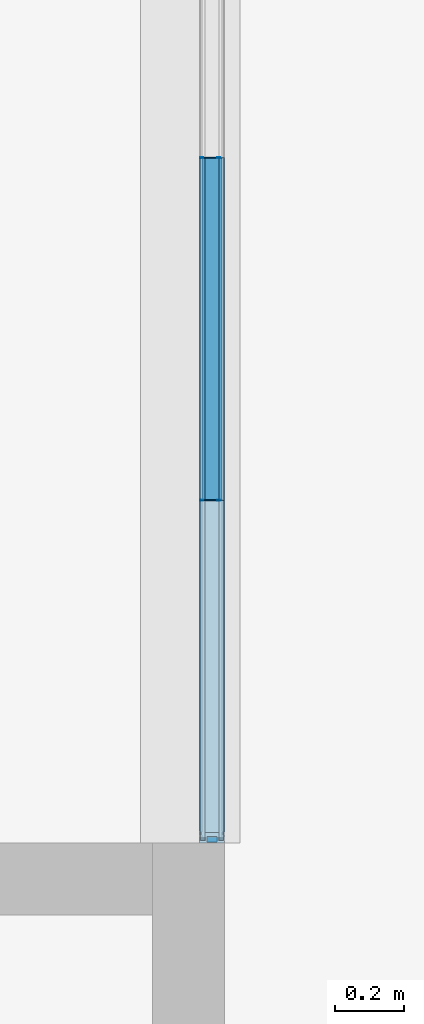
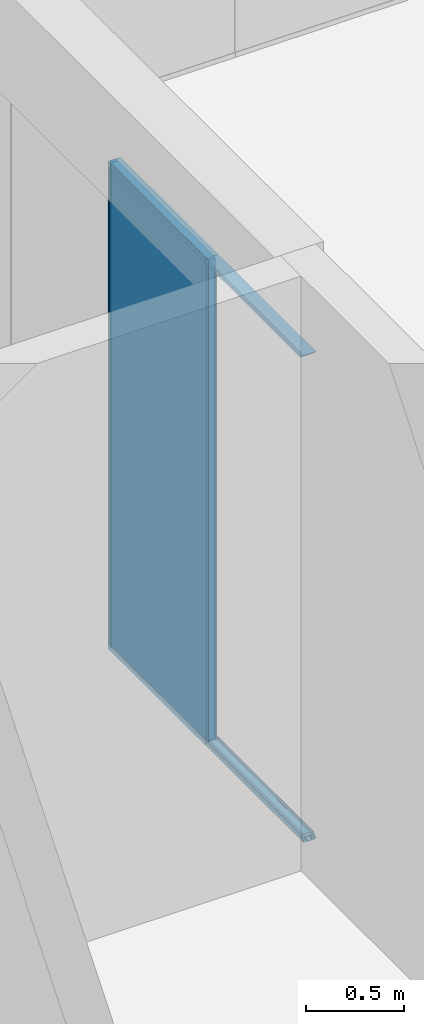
# One storey, part 69 of 387: 10 building element parts, 8 elements without a shape of their own.
"""IFC2X3 building model written with IfcOpenShell, lengths in millimetres."""

from ifc_helpers import new_model, entity, si_unit, converted_unit, derived_unit, money_unit, direction, frame, origin_with_axes, place, context, subcontext, project, spatial, faceted_brep, source, transform, mapped, material, type_object, element, aggregate, save


model = new_model("IFC2X3")

# Units and contexts
model_context = context("Model", 3, precision=0.01, world=origin_with_axes(), true_north=direction((0.0, 1.0)))
body_context = subcontext(model_context, "Body", "Model", "MODEL_VIEW")
ifc_project = project(units=[si_unit("LENGTHUNIT", "METRE", prefix="MILLI"), si_unit("AREAUNIT", "SQUARE_METRE"), si_unit("VOLUMEUNIT", "CUBIC_METRE"), converted_unit("PLANEANGLEUNIT", "DEGREE", entity("IfcPlaneAngleMeasure", 0.0174532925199), si_unit("PLANEANGLEUNIT", "RADIAN"), dimensions=[0, 0, 0, 0, 0, 0, 0]), si_unit("SOLIDANGLEUNIT", "STERADIAN"), money_unit("EUR"), converted_unit("TIMEUNIT", "Year", entity("IfcTimeMeasure", 31556926.0), si_unit("TIMEUNIT", "SECOND"), dimensions=[0, 0, 1, 0, 0, 0, 0]), si_unit("MASSUNIT", "GRAM", prefix="KILO"), si_unit("THERMODYNAMICTEMPERATUREUNIT", "DEGREE_CELSIUS"), si_unit("LUMINOUSINTENSITYUNIT", "LUMEN"), si_unit("ENERGYUNIT", "JOULE", prefix="MEGA"), derived_unit("THERMALCONDUCTANCEUNIT", [(si_unit("POWERUNIT", "WATT"), 1), (si_unit("LENGTHUNIT", "METRE"), -1), (si_unit("THERMODYNAMICTEMPERATUREUNIT", "KELVIN"), -1)]), derived_unit("SPECIFICHEATCAPACITYUNIT", [(si_unit("ENERGYUNIT", "JOULE"), 1), (si_unit("MASSUNIT", "GRAM", prefix="KILO"), -1), (si_unit("THERMODYNAMICTEMPERATUREUNIT", "KELVIN"), -1)]), derived_unit("MASSDENSITYUNIT", [(si_unit("MASSUNIT", "GRAM", prefix="KILO"), 1), (si_unit("VOLUMEUNIT", "CUBIC_METRE"), -1)])], contexts=[model_context])

# Site, building, storey
site_placement = place(None, origin_with_axes())
site = spatial("IfcSite", under=ifc_project, at=site_placement, Name="Puškini 31, Narva", CompositionType="ELEMENT")
building_placement = place(site_placement, origin_with_axes())
building = spatial("IfcBuilding", under=site, at=building_placement, Name="Narva Riigigümnaasium", CompositionType="ELEMENT")
storey_placement = place(building_placement, frame((0.0, 0.0, 2640.0), z_axis=(0.0, 0.0, 1.0), x_axis=(1.0, 0.0, 0.0)))
storey = spatial("IfcBuildingStorey", under=building, at=storey_placement, Name="2.korrus +2.64", CompositionType="ELEMENT", Elevation=2640.0)

# Curtain wall, members, building element parts, plate
curtain_wall_type = type_object("IfcCurtainWallType", Name="Curtain Wall Type", PredefinedType="NOTDEFINED")
curtain_wall_placement = place(storey_placement, frame((32758.0000014, 170699.499919, -1.72487286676e-05), z_axis=(0.0, 0.0, 1.0), x_axis=(1.0, 0.0, 0.0)))
curtain_wall = element("IfcCurtainWall", 1, at=curtain_wall_placement, inside=storey, type_object=curtain_wall_type, Name="G-SKLF-29")
member_type_1 = type_object("IfcMemberType", Name="Boundary Frame 30 x 42", PredefinedType="MULLION")
member_1_placement = place(curtain_wall_placement, frame((-3.12709858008e-08, -2492.5, 0.0), z_axis=(0.0, 1.0, 0.0), x_axis=(0.0, 0.0, 1.0)))
member_1 = element("IfcMember", 2, at=member_1_placement, type_object=member_type_1, Name="G-SKLF-20-raam", ObjectType="MULLION")
ifc_material_1 = material(Name="Teras RAL7012")
shared_shape_1 = source(origin_with_axes(), body_context, "Body", "Brep", [
    faceted_brep([(-29.5999996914, -22.0000000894, 1.47998535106), (0.0, -22.0000000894, 0.0), (0.0, -22.0000000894, 997.0), (-29.5999996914, -22.0000000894, 995.519987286), (-29.5999996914, 12.0000000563, 1.47998535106), (0.0, 12.0000000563, 0.0), (-1.9999999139, 10.0000001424, 0.0999990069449), (-18.7999996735, 10.0000001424, 0.939990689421), (-18.7999996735, -20.0000001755, 0.939990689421), (-1.9999999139, -20.0000001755, 0.0999990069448), (0.0, 12.0000000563, 997.0), (-29.5999996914, 12.0000000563, 995.519987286), (-1.9999999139, 10.0000001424, 996.899999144), (-1.9999999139, -20.0000001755, 996.899999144), (-18.7999996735, -20.0000001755, 996.059991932), (-18.7999996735, 10.0000001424, 996.059991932)], [[[0, 1, 2, 3]], [[1, 0, 4, 5], [6, 7, 8, 9]], [[1, 5, 10, 2]], [[2, 10, 11, 3], [12, 13, 14, 15]], [[4, 0, 3, 11]], [[5, 4, 11, 10]], [[7, 6, 12, 15]], [[8, 7, 15, 14]], [[9, 8, 14, 13]], [[6, 9, 13, 12]]]),
    faceted_brep([(-29.5999996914, 12.0000000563, 1.47998535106), (0.0, 12.0, 0.0), (0.0, 12.0, 997.0), (-29.5999996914, 12.0000000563, 995.519987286), (-30.0000193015, 12.0, 1.49998613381), (-30.0000193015, 15.0, 1.49998613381), (-13.8499999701, 15.000000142, 0.69249315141), (-7.49999999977, 15.0, 0.374996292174), (-7.49999999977, 29.0161444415, 0.374996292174), (-13.8499999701, 29.0161444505, 0.69249315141), (-24.987414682, 29.0161444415, 1.24935838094), (-28.5126239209, 29.0161444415, 1.42561710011), (-30.0000193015, 29.0161444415, 1.49998613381), (-30.0000193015, 32.0, 1.49998613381), (0.0, 32.0, 0.0), (0.0, 32.0, 997.0), (-30.0000193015, 32.0, 995.499986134), (-30.0000193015, 29.0161444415, 995.499986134), (-28.5126239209, 29.0161444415, 995.574356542), (-24.987414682, 29.0161444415, 995.75061852), (-13.8499999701, 29.0161444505, 996.307494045), (-7.49999999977, 29.0161444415, 996.624996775), (-7.49999999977, 15.0, 996.624996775), (-13.8499999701, 15.000000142, 996.307494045), (-30.0000193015, 15.0, 995.499986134), (-30.0000193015, 12.0, 995.499986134)], [[[0, 1, 2, 3]], [[1, 0, 4, 5, 6, 7, 8, 9, 10, 11, 12, 13, 14]], [[1, 14, 15, 2]], [[2, 15, 16, 17, 18, 19, 20, 21, 22, 23, 24, 25, 3]], [[4, 0, 3, 25]], [[5, 4, 25, 24]], [[6, 5, 24, 23]], [[7, 6, 23, 22]], [[8, 7, 22, 21]], [[9, 8, 21, 20]], [[10, 9, 20, 19]], [[11, 10, 19, 18]], [[12, 11, 18, 17]], [[13, 12, 17, 16]], [[14, 13, 16, 15]]]),
    faceted_brep([(0.0, -42.0, 0.0), (0.0, -22.0, 0.0), (0.0, -22.0, 997.0), (0.0, -42.0, 997.0), (-30.0000193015, -42.0, 1.49998613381), (-30.0000193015, -39.0161444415, 1.49998613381), (-28.5126239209, -39.0161444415, 1.42561710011), (-24.987414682, -39.0161444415, 1.24935838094), (-13.8499999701, -39.0161445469, 0.69249315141), (-7.49999999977, -39.0161444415, 0.374996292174), (-7.49999999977, -25.0, 0.374996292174), (-13.8499999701, -24.9999997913, 0.69249315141), (-30.0000193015, -25.0, 1.49998613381), (-30.0000193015, -22.0, 1.49998613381), (-29.5999996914, -22.0000000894, 1.47998535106), (-29.5999996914, -22.0000000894, 995.519987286), (-30.0000193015, -22.0, 995.499986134), (-30.0000193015, -25.0, 995.499986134), (-13.8499999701, -24.9999997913, 996.307494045), (-7.49999999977, -25.0, 996.624996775), (-7.49999999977, -39.0161444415, 996.624996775), (-13.8499999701, -39.0161445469, 996.307494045), (-24.987414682, -39.0161444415, 995.75061852), (-28.5126239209, -39.0161444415, 995.574356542), (-30.0000193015, -39.0161444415, 995.499986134), (-30.0000193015, -42.0, 995.499986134)], [[[0, 1, 2, 3]], [[1, 0, 4, 5, 6, 7, 8, 9, 10, 11, 12, 13, 14]], [[1, 14, 15, 2]], [[2, 15, 16, 17, 18, 19, 20, 21, 22, 23, 24, 25, 3]], [[4, 0, 3, 25]], [[5, 4, 25, 24]], [[6, 5, 24, 23]], [[7, 6, 23, 22]], [[8, 7, 22, 21]], [[9, 8, 21, 20]], [[10, 9, 20, 19]], [[11, 10, 19, 18]], [[12, 11, 18, 17]], [[13, 12, 17, 16]], [[14, 13, 16, 15]]]),
])
building_element_part_1_placement = place(member_1_placement, origin_with_axes())
building_element_part_1 = element("IfcBuildingElementPart", 3, at=building_element_part_1_placement, material=ifc_material_1, Name="Teras RAL7012", context=body_context, shape_type="MappedRepresentation", body=[
    mapped(shared_shape_1, transform((0.0, 0.0, 0.0), x_axis=(-1.0, 0.0, 0.0), y_axis=(0.0, -1.0, 0.0), z_axis=(0.0, 0.0, 1.0))),
])
aggregate(member_1, [building_element_part_1])
member_2_placement = place(curtain_wall_placement, frame((-1.87654336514e-08, -1495.5, 3030.00004237), z_axis=(0.0, -1.0, 0.0), x_axis=(0.0, 0.0, -1.0)))
member_2 = element("IfcMember", 4, at=member_2_placement, type_object=member_type_1, Name="G-SKLF-28-raam", ObjectType="MULLION")
building_element_part_2_placement = place(member_2_placement, origin_with_axes())
building_element_part_2 = element("IfcBuildingElementPart", 5, at=building_element_part_2_placement, material=ifc_material_1, Name="Teras RAL7012", context=body_context, shape_type="MappedRepresentation", body=[
    mapped(shared_shape_1, transform((0.0, 0.0, 0.0), x_axis=(-1.0, 0.0, 0.0), y_axis=(0.0, -1.0, 0.0), z_axis=(0.0, 0.0, 1.0))),
])
aggregate(member_2, [building_element_part_2])
member_type_2 = type_object("IfcMemberType", Name="3 x 29", PredefinedType="MULLION")
member_3_placement = place(curtain_wall_placement, frame((-3.12709858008e-08, -2492.5, 0.0), z_axis=(0.0, 0.0, 1.0), x_axis=(0.0, -1.0, 0.0)))
member_3 = element("IfcMember", 6, at=member_3_placement, type_object=member_type_2, Name="G-SKLF-81-raam", ObjectType="MULLION")
ifc_material_2 = material(Name="Klaas")
shared_shape_2 = source(origin_with_axes(), body_context, "Body", "Brep", [
    faceted_brep([(-1.50001386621, 20.0064497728, 30.0000193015), (-1.50001386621, 20.0064497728, 3000.00002302), (-1.50001386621, 29.0064496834, 3000.00002302), (-1.50001386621, 29.0064496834, 30.0000193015), (0.0, 20.0064497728, 0.0), (1.49998613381, 20.0064497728, 30.0000193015), (1.49998613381, 20.0064497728, 3000.00002307), (0.0, 20.0064497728, 3030.00004237), (0.0, 29.0064496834, 3030.00004237), (0.0, 29.0064496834, 0.0), (1.49998613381, 29.0064496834, 3000.00002307), (1.49998613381, 29.0064496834, 30.0000193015)], [[[0, 1, 2, 3]], [[4, 5, 6, 7, 1, 0]], [[2, 1, 7, 8]], [[9, 3, 2, 8, 10, 11]], [[9, 4, 0, 3]], [[11, 5, 4, 9]], [[11, 10, 6, 5]], [[10, 8, 7, 6]]]),
    faceted_brep([(-1.50001386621, -28.9935503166, 30.0000193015), (-1.50001386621, -28.9935503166, 3000.00002302), (-1.50001386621, -19.993550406, 3000.00002302), (-1.50001386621, -19.993550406, 30.0000193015), (0.0, -28.9935503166, 0.0), (1.49998613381, -28.9935503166, 30.0000193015), (1.49998613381, -28.9935503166, 3000.00002307), (0.0, -28.9935503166, 3030.00004237), (0.0, -19.993550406, 3030.00004237), (0.0, -19.993550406, 0.0), (1.49998613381, -19.993550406, 3000.00002307), (1.49998613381, -19.993550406, 30.0000193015)], [[[0, 1, 2, 3]], [[4, 5, 6, 7, 1, 0]], [[2, 1, 7, 8]], [[9, 3, 2, 8, 10, 11]], [[9, 4, 0, 3]], [[11, 5, 4, 9]], [[11, 10, 6, 5]], [[10, 8, 7, 6]]]),
])
building_element_part_3_placement = place(member_3_placement, origin_with_axes())
building_element_part_3 = element("IfcBuildingElementPart", 7, at=building_element_part_3_placement, material=ifc_material_2, Name="Klaas", context=body_context, shape_type="MappedRepresentation", body=[
    mapped(shared_shape_2, transform((0.0, 0.0, 0.0), x_axis=(-1.0, 0.0, 0.0), y_axis=(0.0, -1.0, 0.0), z_axis=(0.0, 0.0, 1.0))),
])
member_4_placement = place(curtain_wall_placement, frame((-1.87654336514e-08, -1495.5, 0.0), z_axis=(0.0, 0.0, 1.0), x_axis=(0.0, -1.0, 0.0)))
member_4 = element("IfcMember", 8, at=member_4_placement, type_object=member_type_2, Name="G-SKLF-82-raam", ObjectType="MULLION")
building_element_part_4_placement = place(member_4_placement, origin_with_axes())
building_element_part_4 = element("IfcBuildingElementPart", 9, at=building_element_part_4_placement, material=ifc_material_2, Name="Klaas", context=body_context, shape_type="MappedRepresentation", body=[
    mapped(shared_shape_2, transform((0.0, 0.0, 0.0), x_axis=(-1.0, 0.0, 0.0), y_axis=(0.0, -1.0, 0.0), z_axis=(0.0, 0.0, 1.0))),
])
ifc_material_3 = material(Name="VKR-06_Õhkvahe")
shared_shape_3 = source(origin_with_axes(), body_context, "Body", "Brep", [
    faceted_brep([(-1.50001386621, -19.9935503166, 30.0000193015), (-1.50001386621, -19.9935503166, 3000.00002302), (-1.50001386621, 20.0064496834, 3000.00002302), (-1.50001386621, 20.0064496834, 30.0000193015), (0.0, -19.9935503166, 0.0), (1.49998613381, -19.9935503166, 30.0000193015), (1.49998613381, -19.9935503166, 3000.00002307), (0.0, -19.9935503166, 3030.00004237), (0.0, 20.0064496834, 3030.00004237), (0.0, 20.0064496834, 0.0), (1.49998613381, 20.0064496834, 3000.00002307), (1.49998613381, 20.0064496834, 30.0000193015)], [[[0, 1, 2, 3]], [[4, 5, 6, 7, 1, 0]], [[2, 1, 7, 8]], [[9, 3, 2, 8, 10, 11]], [[9, 4, 0, 3]], [[11, 5, 4, 9]], [[11, 10, 6, 5]], [[10, 8, 7, 6]]]),
])
building_element_part_5_placement = place(member_3_placement, origin_with_axes())
building_element_part_5 = element("IfcBuildingElementPart", 10, at=building_element_part_5_placement, material=ifc_material_3, Name="VKR-06_Õhkvahe", context=body_context, shape_type="MappedRepresentation", body=[
    mapped(shared_shape_3, transform((0.0, 0.0, 0.0), x_axis=(-1.0, 0.0, 0.0), y_axis=(0.0, -1.0, 0.0), z_axis=(0.0, 0.0, 1.0))),
])
aggregate(member_3, [building_element_part_3, building_element_part_5])
building_element_part_6_placement = place(member_4_placement, origin_with_axes())
building_element_part_6 = element("IfcBuildingElementPart", 11, at=building_element_part_6_placement, material=ifc_material_3, Name="VKR-06_Õhkvahe", context=body_context, shape_type="MappedRepresentation", body=[
    mapped(shared_shape_3, transform((0.0, 0.0, 0.0), x_axis=(-1.0, 0.0, 0.0), y_axis=(0.0, -1.0, 0.0), z_axis=(0.0, 0.0, 1.0))),
])
aggregate(member_4, [building_element_part_4, building_element_part_6])
plate_type = type_object("IfcPlateType", Name="Siseklaasfassaad - Klaas 994 x 3000 x 10", PredefinedType="CURTAIN_PANEL")
plate_placement = place(curtain_wall_placement, frame((-2.50182097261e-08, -1994.0, 1515.00002119), z_axis=(0.0, 0.0, 1.0), x_axis=(0.0, -1.0, 0.0)))
plate = element("IfcPlate", 12, at=plate_placement, type_object=plate_type, Name="G-SKLF-30-klaas", ObjectType="CURTAIN_PANEL")
ifc_material_4 = material(Name="VKR-05_Klaas")
shared_shape_4 = source(origin_with_axes(), body_context, "Body", "Brep", [
    faceted_brep([(-995.500001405, 3015.00003233, -34.0), (-995.500001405, 3015.00003233, -25.0), (-1.49999197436, 3015.00003233, -25.0), (-1.49999197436, 3015.00003233, -34.0), (-995.500001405, 15.0000100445, -34.0), (-995.500001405, 15.0000100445, -25.0), (-1.49999197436, 15.0000100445, -25.0), (-1.49999197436, 15.0000100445, -34.0)], [[[0, 1, 2, 3]], [[4, 5, 1, 0]], [[1, 5, 6, 2]], [[3, 2, 6, 7]], [[0, 3, 7, 4]], [[7, 6, 5, 4]]]),
    faceted_brep([(-995.500001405, 3015.00003233, 15.0), (-995.500001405, 3015.00003233, 24.0), (-1.49999197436, 3015.00003233, 24.0), (-1.49999197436, 3015.00003233, 15.0), (-995.500001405, 15.0000100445, 15.0), (-995.500001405, 15.0000100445, 24.0), (-1.49999197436, 15.0000100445, 24.0), (-1.49999197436, 15.0000100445, 15.0)], [[[0, 1, 2, 3]], [[4, 5, 1, 0]], [[1, 5, 6, 2]], [[3, 2, 6, 7]], [[0, 3, 7, 4]], [[7, 6, 5, 4]]]),
])
building_element_part_7_placement = place(plate_placement, origin_with_axes())
building_element_part_7 = element("IfcBuildingElementPart", 13, at=building_element_part_7_placement, material=ifc_material_4, Name="VKR-05_Klaas", context=body_context, shape_type="MappedRepresentation", body=[
    mapped(shared_shape_4, transform((498.5, 0.0, -1515.00002119), x_axis=(1.0, 0.0, 0.0), y_axis=(0.0, 0.0, 1.0), z_axis=(0.0, -1.0, 0.0))),
])
shared_shape_5 = source(origin_with_axes(), body_context, "Body", "Brep", [
    faceted_brep([(-995.500001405, 3015.00003233, -25.0), (-995.500001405, 3015.00003233, 15.0), (-1.49999197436, 3015.00003233, 15.0), (-1.49999197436, 3015.00003233, -25.0), (-995.500001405, 15.0000100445, -25.0), (-995.500001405, 15.0000100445, 15.0), (-1.49999197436, 15.0000100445, 15.0), (-1.49999197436, 15.0000100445, -25.0)], [[[0, 1, 2, 3]], [[4, 5, 1, 0]], [[1, 5, 6, 2]], [[3, 2, 6, 7]], [[0, 3, 7, 4]], [[7, 6, 5, 4]]]),
])
building_element_part_8_placement = place(plate_placement, origin_with_axes())
building_element_part_8 = element("IfcBuildingElementPart", 14, at=building_element_part_8_placement, material=ifc_material_3, Name="VKR-06_Õhkvahe", context=body_context, shape_type="MappedRepresentation", body=[
    mapped(shared_shape_5, transform((498.5, 0.0, -1515.00002119), x_axis=(1.0, 0.0, 0.0), y_axis=(0.0, 0.0, 1.0), z_axis=(0.0, -1.0, 0.0))),
])
aggregate(plate, [building_element_part_7, building_element_part_8])
member_5_placement = place(curtain_wall_placement, frame((-4.37836433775e-08, -3489.5, 0.0), z_axis=(0.0, 1.0, 0.0), x_axis=(0.0, 0.0, 1.0)))
member_5 = element("IfcMember", 15, at=member_5_placement, type_object=member_type_1, Name="G-SKLF-19-raam", ObjectType="MULLION")
shared_shape_6 = source(origin_with_axes(), body_context, "Body", "Brep", [
    faceted_brep([(-29.5999996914, -22.0000000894, 29.5999996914), (0.0, -22.0000000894, 0.0), (0.0, -22.0000000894, 997.0), (-29.5999996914, -22.0000000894, 995.519987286), (-29.5999996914, 12.0000000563, 29.5999996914), (0.0, 12.0000000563, 0.0), (-1.9999999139, 10.0000001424, 1.9999999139), (-18.7999996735, 10.0000001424, 18.7999996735), (-18.7999996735, -20.0000001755, 18.7999996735), (-1.9999999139, -20.0000001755, 1.9999999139), (0.0, 12.0000000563, 997.0), (-29.5999996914, 12.0000000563, 995.519987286), (-1.9999999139, 10.0000001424, 996.899999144), (-1.9999999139, -20.0000001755, 996.899999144), (-18.7999996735, -20.0000001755, 996.059991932), (-18.7999996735, 10.0000001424, 996.059991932)], [[[0, 1, 2, 3]], [[1, 0, 4, 5], [6, 7, 8, 9]], [[1, 5, 10, 2]], [[2, 10, 11, 3], [12, 13, 14, 15]], [[4, 0, 3, 11]], [[5, 4, 11, 10]], [[7, 6, 12, 15]], [[8, 7, 15, 14]], [[9, 8, 14, 13]], [[6, 9, 13, 12]]]),
    faceted_brep([(-29.5999996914, 12.0000000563, 29.5999996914), (0.0, 12.0, 0.0), (0.0, 12.0, 997.0), (-29.5999996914, 12.0000000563, 995.519987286), (-30.0000193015, 12.0, 30.0000193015), (-30.0000193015, 15.0, 30.0000193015), (-13.8499999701, 15.000000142, 13.8499999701), (-7.49999999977, 15.0, 7.49999999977), (-7.49999999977, 29.0161444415, 7.49999999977), (-13.8499999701, 29.0161444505, 13.8499999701), (-24.987414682, 29.0161444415, 24.987414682), (-28.5126239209, 29.0161444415, 28.5126239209), (-30.0000193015, 29.0161444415, 30.0000193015), (-30.0000193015, 32.0, 30.0000193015), (0.0, 32.0, 0.0), (0.0, 32.0, 997.0), (-30.0000193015, 32.0, 995.499986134), (-30.0000193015, 29.0161444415, 995.499986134), (-28.5126239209, 29.0161444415, 995.574356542), (-24.987414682, 29.0161444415, 995.75061852), (-13.8499999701, 29.0161444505, 996.307494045), (-7.49999999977, 29.0161444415, 996.624996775), (-7.49999999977, 15.0, 996.624996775), (-13.8499999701, 15.000000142, 996.307494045), (-30.0000193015, 15.0, 995.499986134), (-30.0000193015, 12.0, 995.499986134)], [[[0, 1, 2, 3]], [[1, 0, 4, 5, 6, 7, 8, 9, 10, 11, 12, 13, 14]], [[1, 14, 15, 2]], [[2, 15, 16, 17, 18, 19, 20, 21, 22, 23, 24, 25, 3]], [[4, 0, 3, 25]], [[5, 4, 25, 24]], [[6, 5, 24, 23]], [[7, 6, 23, 22]], [[8, 7, 22, 21]], [[9, 8, 21, 20]], [[10, 9, 20, 19]], [[11, 10, 19, 18]], [[12, 11, 18, 17]], [[13, 12, 17, 16]], [[14, 13, 16, 15]]]),
    faceted_brep([(0.0, -42.0, 0.0), (0.0, -22.0, 0.0), (0.0, -22.0, 997.0), (0.0, -42.0, 997.0), (-30.0000193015, -42.0, 30.0000193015), (-30.0000193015, -39.0161444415, 30.0000193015), (-28.5126239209, -39.0161444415, 28.5126239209), (-24.987414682, -39.0161444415, 24.987414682), (-13.8499999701, -39.0161445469, 13.8499999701), (-7.49999999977, -39.0161444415, 7.49999999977), (-7.49999999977, -25.0, 7.49999999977), (-13.8499999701, -24.9999997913, 13.8499999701), (-30.0000193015, -25.0, 30.0000193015), (-30.0000193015, -22.0, 30.0000193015), (-29.5999996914, -22.0000000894, 29.5999996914), (-29.5999996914, -22.0000000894, 995.519987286), (-30.0000193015, -22.0, 995.499986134), (-30.0000193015, -25.0, 995.499986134), (-13.8499999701, -24.9999997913, 996.307494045), (-7.49999999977, -25.0, 996.624996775), (-7.49999999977, -39.0161444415, 996.624996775), (-13.8499999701, -39.0161445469, 996.307494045), (-24.987414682, -39.0161444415, 995.75061852), (-28.5126239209, -39.0161444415, 995.574356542), (-30.0000193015, -39.0161444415, 995.499986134), (-30.0000193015, -42.0, 995.499986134)], [[[0, 1, 2, 3]], [[1, 0, 4, 5, 6, 7, 8, 9, 10, 11, 12, 13, 14]], [[1, 14, 15, 2]], [[2, 15, 16, 17, 18, 19, 20, 21, 22, 23, 24, 25, 3]], [[4, 0, 3, 25]], [[5, 4, 25, 24]], [[6, 5, 24, 23]], [[7, 6, 23, 22]], [[8, 7, 22, 21]], [[9, 8, 21, 20]], [[10, 9, 20, 19]], [[11, 10, 19, 18]], [[12, 11, 18, 17]], [[13, 12, 17, 16]], [[14, 13, 16, 15]]]),
])
building_element_part_9_placement = place(member_5_placement, origin_with_axes())
building_element_part_9 = element("IfcBuildingElementPart", 16, at=building_element_part_9_placement, material=ifc_material_1, Name="Teras RAL7012", context=body_context, shape_type="MappedRepresentation", body=[
    mapped(shared_shape_6, transform((0.0, 0.0, 0.0), x_axis=(-1.0, 0.0, 0.0), y_axis=(0.0, -1.0, 0.0), z_axis=(0.0, 0.0, 1.0))),
])
aggregate(member_5, [building_element_part_9])
member_6_placement = place(curtain_wall_placement, frame((-3.12709858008e-08, -2492.5, 3030.00004237), z_axis=(0.0, -1.0, -3.6651763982e-08), x_axis=(0.0, 3.6651763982e-08, -1.0)))
member_6 = element("IfcMember", 17, at=member_6_placement, type_object=member_type_1, Name="G-SKLF-29-raam", ObjectType="MULLION")
aggregate(curtain_wall, [member_5, member_1, member_6, member_3, member_2, member_4, plate])
shared_shape_7 = source(origin_with_axes(), body_context, "Body", "Brep", [
    faceted_brep([(-29.5999996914, -22.0000000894, 1.48001379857), (0.0, -22.0000000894, 0.0), (0.0, -22.0000000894, 997.0), (-29.5999996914, -22.0000000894, 967.400001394), (-29.5999996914, 12.0000000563, 1.48001379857), (0.0, 12.0000000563, 0.0), (-1.9999999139, 10.0000001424, 0.100000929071), (-18.7999996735, 10.0000001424, 0.940008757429), (-18.7999996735, -20.0000001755, 0.940008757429), (-1.9999999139, -20.0000001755, 0.100000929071), (0.0, 12.0000000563, 997.0), (-29.5999996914, 12.0000000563, 967.400001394), (-1.9999999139, 10.0000001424, 995.000000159), (-1.9999999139, -20.0000001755, 995.000000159), (-18.7999996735, -20.0000001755, 978.200001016), (-18.7999996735, 10.0000001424, 978.200001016)], [[[0, 1, 2, 3]], [[1, 0, 4, 5], [6, 7, 8, 9]], [[1, 5, 10, 2]], [[2, 10, 11, 3], [12, 13, 14, 15]], [[4, 0, 3, 11]], [[5, 4, 11, 10]], [[7, 6, 12, 15]], [[8, 7, 15, 14]], [[9, 8, 14, 13]], [[6, 9, 13, 12]]]),
    faceted_brep([(-29.5999996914, 12.0000000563, 1.48001379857), (0.0, 12.0, 0.0), (0.0, 12.0, 997.0), (-29.5999996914, 12.0000000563, 967.400001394), (-30.0000193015, 12.0, 1.50001496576), (-30.0000193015, 15.0, 1.50001496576), (-13.8499999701, 15.000000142, 0.69250646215), (-7.49999999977, 15.0, 0.375003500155), (-7.49999999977, 29.0161444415, 0.375003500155), (-13.8499999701, 29.0161444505, 0.69250646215), (-24.987414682, 29.0161444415, 1.24938239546), (-28.5126239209, 29.0161444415, 1.42564450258), (-30.0000193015, 29.0161444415, 1.50001496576), (-30.0000193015, 32.0, 1.50001496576), (0.0, 32.0, 0.0), (0.0, 32.0, 997.0), (-30.0000193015, 32.0, 966.999981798), (-30.0000193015, 29.0161444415, 966.999981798), (-28.5126239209, 29.0161444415, 968.487377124), (-24.987414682, 29.0161444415, 972.012586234), (-13.8499999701, 29.0161444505, 983.150000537), (-7.49999999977, 29.0161444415, 989.500000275), (-7.49999999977, 15.0, 989.500000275), (-13.8499999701, 15.000000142, 983.150000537), (-30.0000193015, 15.0, 966.999981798), (-30.0000193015, 12.0, 966.999981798)], [[[0, 1, 2, 3]], [[1, 0, 4, 5, 6, 7, 8, 9, 10, 11, 12, 13, 14]], [[1, 14, 15, 2]], [[2, 15, 16, 17, 18, 19, 20, 21, 22, 23, 24, 25, 3]], [[4, 0, 3, 25]], [[5, 4, 25, 24]], [[6, 5, 24, 23]], [[7, 6, 23, 22]], [[8, 7, 22, 21]], [[9, 8, 21, 20]], [[10, 9, 20, 19]], [[11, 10, 19, 18]], [[12, 11, 18, 17]], [[13, 12, 17, 16]], [[14, 13, 16, 15]]]),
    faceted_brep([(0.0, -42.0, 0.0), (0.0, -22.0, 0.0), (0.0, -22.0, 997.0), (0.0, -42.0, 997.0), (-30.0000193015, -42.0, 1.50001496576), (-30.0000193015, -39.0161444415, 1.50001496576), (-28.5126239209, -39.0161444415, 1.42564450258), (-24.987414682, -39.0161444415, 1.24938239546), (-13.8499999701, -39.0161445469, 0.69250646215), (-7.49999999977, -39.0161444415, 0.375003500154), (-7.49999999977, -25.0, 0.375003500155), (-13.8499999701, -24.9999997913, 0.69250646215), (-30.0000193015, -25.0, 1.50001496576), (-30.0000193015, -22.0, 1.50001496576), (-29.5999996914, -22.0000000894, 1.48001379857), (-29.5999996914, -22.0000000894, 967.400001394), (-30.0000193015, -22.0, 966.999981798), (-30.0000193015, -25.0, 966.999981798), (-13.8499999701, -24.9999997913, 983.150000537), (-7.49999999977, -25.0, 989.500000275), (-7.49999999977, -39.0161444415, 989.500000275), (-13.8499999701, -39.0161445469, 983.150000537), (-24.987414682, -39.0161444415, 972.012586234), (-28.5126239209, -39.0161444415, 968.487377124), (-30.0000193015, -39.0161444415, 966.999981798), (-30.0000193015, -42.0, 966.999981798)], [[[0, 1, 2, 3]], [[1, 0, 4, 5, 6, 7, 8, 9, 10, 11, 12, 13, 14]], [[1, 14, 15, 2]], [[2, 15, 16, 17, 18, 19, 20, 21, 22, 23, 24, 25, 3]], [[4, 0, 3, 25]], [[5, 4, 25, 24]], [[6, 5, 24, 23]], [[7, 6, 23, 22]], [[8, 7, 22, 21]], [[9, 8, 21, 20]], [[10, 9, 20, 19]], [[11, 10, 19, 18]], [[12, 11, 18, 17]], [[13, 12, 17, 16]], [[14, 13, 16, 15]]]),
])
building_element_part_10_placement = place(member_6_placement, origin_with_axes())
building_element_part_10 = element("IfcBuildingElementPart", 18, at=building_element_part_10_placement, material=ifc_material_1, Name="Teras RAL7012", context=body_context, shape_type="MappedRepresentation", body=[
    mapped(shared_shape_7, transform((0.0, 0.0, 0.0), x_axis=(-1.0, 0.0, -3.66517640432e-08), y_axis=(0.0, -1.0, 0.0), z_axis=(-3.66517640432e-08, 0.0, 1.0))),
])
aggregate(member_6, [building_element_part_10])

save(model, "model.ifc")
